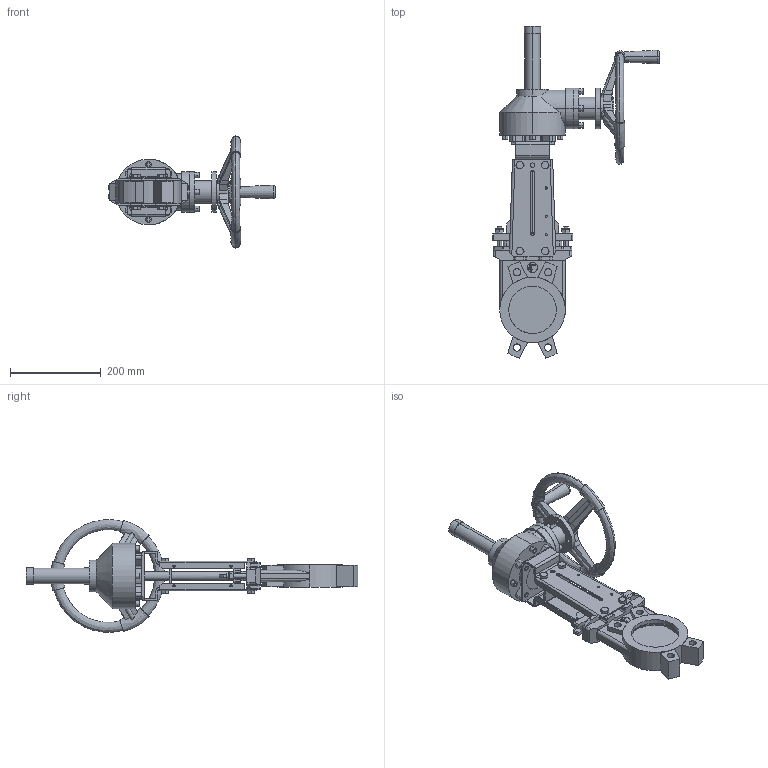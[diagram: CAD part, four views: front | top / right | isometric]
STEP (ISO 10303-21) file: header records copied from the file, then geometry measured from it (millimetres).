
FILE_DESCRIPTION (( 'STEP AP203' ), '1' );
FILE_NAME ('VG G DN100.STEP', '2010-04-22T09:12:35', ( 'farex' ), ( '' ), 'SwSTEP 2.0', 'SolidWorks 2009', '' );
FILE_SCHEMA (( 'CONFIG_CONTROL_DESIGN' ));
Length unit declared in the file: millimetre
Products named in the file (1): VG G DN100
Bounding box: 369 x 733.66 x 248.05 mm (x, y, z)
Volume: 3768402.2 mm3; surface area: 537101.4 mm2
Topology: 1 solids, 5 shells, 960 faces, 2496 edges, 1616 vertices
Faces by surface type: plane 465, cylinder 270, cone 129, bspline 86, torus 10
Entity records: 34402 total; most frequent: CARTESIAN_POINT 11347, ORIENTED_EDGE 4992, DIRECTION 4453, EDGE_CURVE 2496, VERTEX_POINT 1616, AXIS2_PLACEMENT_3D 1562, LINE 1329, VECTOR 1329
